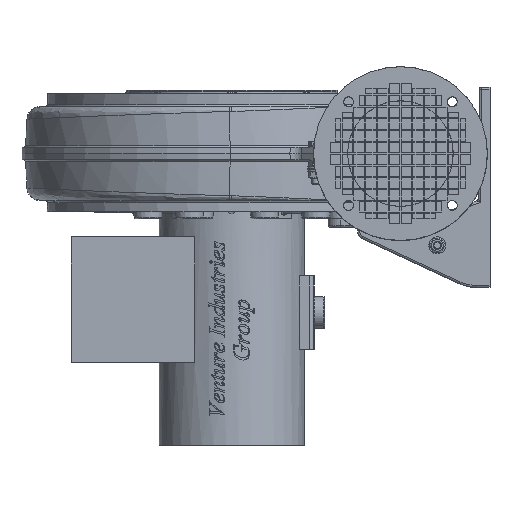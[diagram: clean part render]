
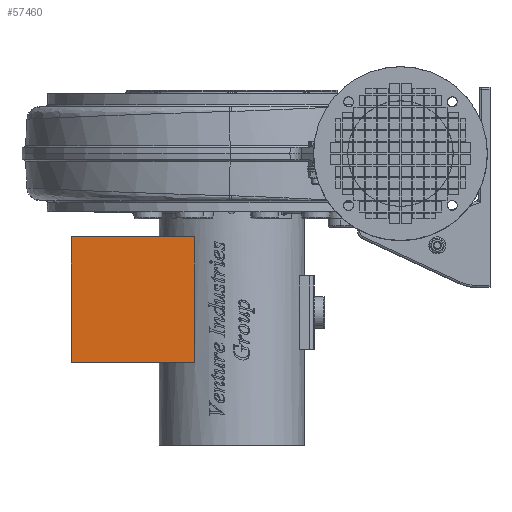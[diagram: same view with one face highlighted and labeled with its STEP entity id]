
A CAD part, left-side view. The second image highlights one B-rep face of the part: STEP entity #57460.
In plain terms, the highlighted planar face has unit normal (-1, 0.008, 0).
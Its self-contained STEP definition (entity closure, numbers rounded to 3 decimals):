
#5038=PLANE('',#61020);
#8002=FACE_OUTER_BOUND('',#11598,.T.);
#11598=EDGE_LOOP('',(#51770,#51771,#51772,#51773));
#13160=LINE('',#78709,#18169);
#17862=LINE('',#118149,#22871);
#17866=LINE('',#118155,#22875);
#17867=LINE('',#118157,#22876);
#18169=VECTOR('',#61672,10.);
#22871=VECTOR('',#73050,10.);
#22875=VECTOR('',#73058,10.);
#22876=VECTOR('',#73061,10.);
#23396=VERTEX_POINT('',#78706);
#23397=VERTEX_POINT('',#78708);
#27983=VERTEX_POINT('',#118146);
#27984=VERTEX_POINT('',#118148);
#28733=EDGE_CURVE('',#23396,#23397,#13160,.T.);
#35923=EDGE_CURVE('',#27983,#27984,#17862,.T.);
#35927=EDGE_CURVE('',#23397,#27983,#17866,.T.);
#35928=EDGE_CURVE('',#23396,#27984,#17867,.T.);
#51770=ORIENTED_EDGE('',*,*,#28733,.F.);
#51771=ORIENTED_EDGE('',*,*,#35928,.T.);
#51772=ORIENTED_EDGE('',*,*,#35923,.F.);
#51773=ORIENTED_EDGE('',*,*,#35927,.F.);
#57460=ADVANCED_FACE('',(#8002),#5038,.T.);
#61020=AXIS2_PLACEMENT_3D('',#118158,#73062,#73063);
#61672=DIRECTION('',(0.,0.,-1.));
#73050=DIRECTION('',(0.,0.,1.));
#73058=DIRECTION('',(0.008,1.,0.));
#73061=DIRECTION('',(0.008,1.,0.));
#73062=DIRECTION('center_axis',(-1.,0.008,0.));
#73063=DIRECTION('ref_axis',(0.,0.,
1.));
#78706=CARTESIAN_POINT('',(-82.94,162.142,-9.017));
#78708=CARTESIAN_POINT('',(-82.94,162.142,-127.983));
#78709=CARTESIAN_POINT('',(-82.94,162.142,19.));
#118146=CARTESIAN_POINT('',(-82.022,279.467,-127.983));
#118148=CARTESIAN_POINT('',(-82.022,279.467,-9.017));
#118149=CARTESIAN_POINT('',(-82.022,279.467,-127.983));
#118155=CARTESIAN_POINT('',(-83.033,150.223,-127.983));
#118157=CARTESIAN_POINT('',(-83.033,150.223,-9.017));
#118158=CARTESIAN_POINT('Origin',(-83.033,150.223,-127.983));
